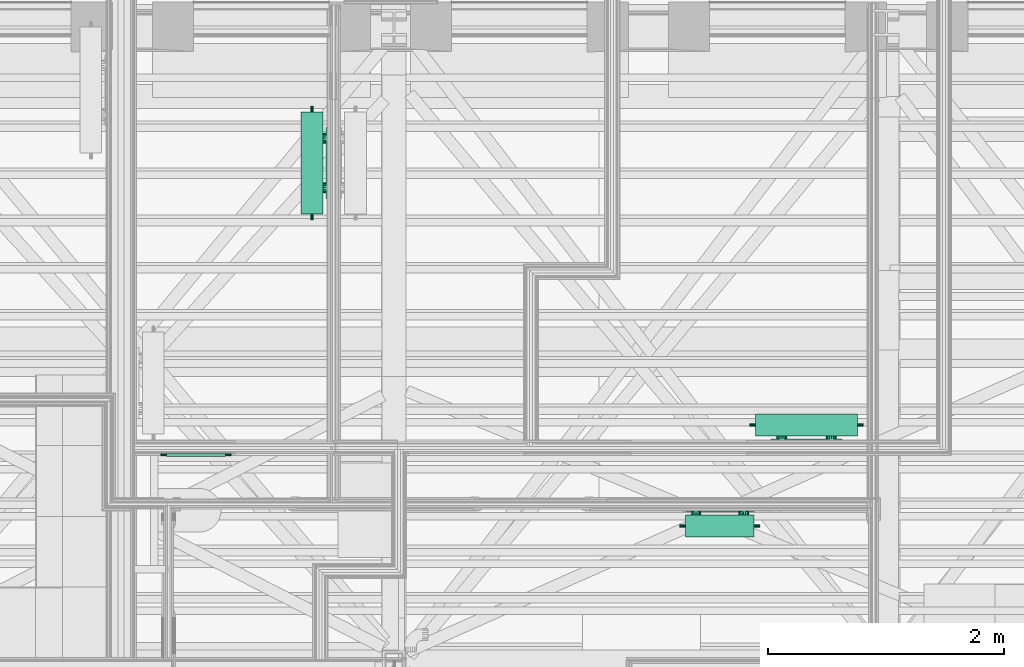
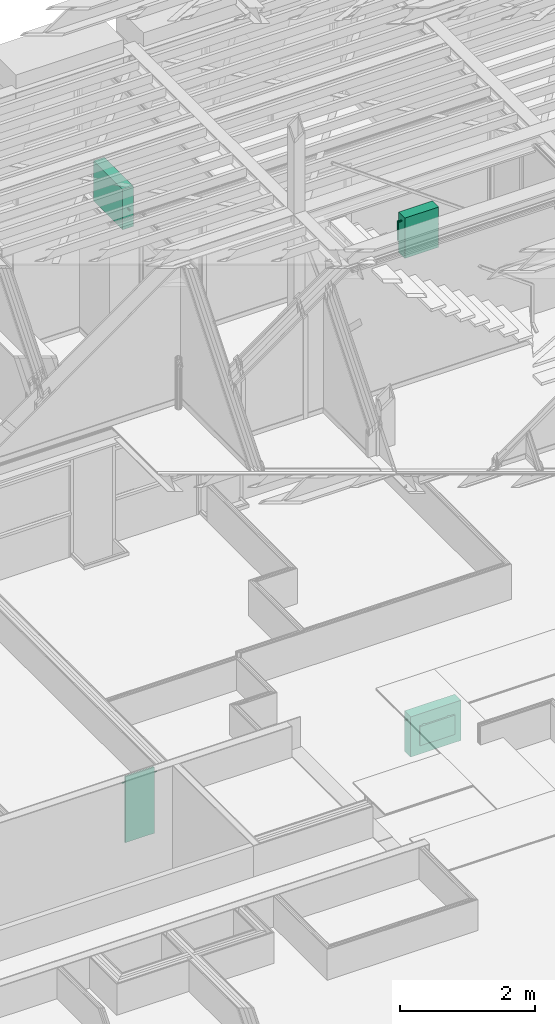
# One storey, part 168 of 183: 4 flow terminals.
"""IFC2X3 building model written with IfcOpenShell, lengths in metres."""

from ifc_helpers import new_model, entity, si_unit, converted_unit, derived_unit, money_unit, direction, frame, origin_with_axes, place, context, subcontext, project, spatial, open_shell, surface_model, material, type_object, element, save


model = new_model("IFC2X3")

# Units and contexts
model_context = context("Model", 3, precision=1e-05, world=origin_with_axes(), true_north=direction((0.0, 1.0)))
body_context = subcontext(model_context, "Body", "Model", "MODEL_VIEW", scale=1.0)
ifc_project = project(units=[si_unit("LENGTHUNIT", "METRE"), si_unit("AREAUNIT", "SQUARE_METRE"), si_unit("VOLUMEUNIT", "CUBIC_METRE"), si_unit("ABSORBEDDOSEUNIT", "GRAY"), si_unit("AMOUNTOFSUBSTANCEUNIT", "MOLE"), si_unit("DOSEEQUIVALENTUNIT", "SIEVERT"), si_unit("ELECTRICCAPACITANCEUNIT", "FARAD"), si_unit("ELECTRICCHARGEUNIT", "COULOMB"), si_unit("ELECTRICCONDUCTANCEUNIT", "SIEMENS"), si_unit("ELECTRICCURRENTUNIT", "AMPERE"), si_unit("ELECTRICRESISTANCEUNIT", "OHM"), si_unit("ELECTRICVOLTAGEUNIT", "VOLT"), si_unit("ENERGYUNIT", "JOULE"), si_unit("FORCEUNIT", "NEWTON"), si_unit("FREQUENCYUNIT", "HERTZ"), si_unit("ILLUMINANCEUNIT", "LUX"), si_unit("INDUCTANCEUNIT", "HENRY"), si_unit("LUMINOUSFLUXUNIT", "LUMEN"), si_unit("LUMINOUSINTENSITYUNIT", "CANDELA"), si_unit("MAGNETICFLUXDENSITYUNIT", "TESLA"), si_unit("MAGNETICFLUXUNIT", "WEBER"), si_unit("MASSUNIT", "GRAM"), converted_unit("PLANEANGLEUNIT", "degree", entity("IfcReal", 0.0174532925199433), si_unit("PLANEANGLEUNIT", "RADIAN"), dimensions=[0, 0, 0, 0, 0, 0, 0]), si_unit("POWERUNIT", "WATT"), si_unit("PRESSUREUNIT", "PASCAL"), si_unit("RADIOACTIVITYUNIT", "BECQUEREL"), si_unit("SOLIDANGLEUNIT", "STERADIAN"), si_unit("THERMODYNAMICTEMPERATUREUNIT", "KELVIN"), si_unit("TIMEUNIT", "SECOND"), derived_unit("ACCELERATIONUNIT", [(si_unit("LENGTHUNIT", "METRE"), 1), (si_unit("TIMEUNIT", "SECOND"), -2)]), derived_unit("ANGULARVELOCITYUNIT", [(converted_unit("PLANEANGLEUNIT", "degree", entity("IfcReal", 0.0174532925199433), si_unit("PLANEANGLEUNIT", "RADIAN"), dimensions=[0, 0, 0, 0, 0, 0, 0]), 1), (si_unit("TIMEUNIT", "SECOND"), -1)]), derived_unit("CURVATUREUNIT", [(converted_unit("PLANEANGLEUNIT", "degree", entity("IfcReal", 0.0174532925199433), si_unit("PLANEANGLEUNIT", "RADIAN"), dimensions=[0, 0, 0, 0, 0, 0, 0]), 1), (si_unit("LENGTHUNIT", "METRE"), -1)]), derived_unit("DYNAMICVISCOSITYUNIT", [(si_unit("PRESSUREUNIT", "PASCAL"), 1), (si_unit("TIMEUNIT", "SECOND"), 1)]), derived_unit("HEATFLUXDENSITYUNIT", [(si_unit("POWERUNIT", "WATT"), 1), (si_unit("LENGTHUNIT", "METRE"), -2)]), derived_unit("HEATINGVALUEUNIT", [(si_unit("ENERGYUNIT", "JOULE"), 1), (si_unit("MASSUNIT", "GRAM"), -1)]), derived_unit("INTEGERCOUNTRATEUNIT", [(si_unit("TIMEUNIT", "SECOND"), -1)]), derived_unit("IONCONCENTRATIONUNIT", [(si_unit("MASSUNIT", "GRAM"), 1), (si_unit("VOLUMEUNIT", "CUBIC_METRE"), -1)]), derived_unit("ISOTHERMALMOISTURECAPACITYUNIT", [(si_unit("VOLUMEUNIT", "CUBIC_METRE"), 1), (si_unit("MASSUNIT", "GRAM"), -1)]), derived_unit("KINEMATICVISCOSITYUNIT", [(si_unit("AREAUNIT", "SQUARE_METRE"), 1), (si_unit("TIMEUNIT", "SECOND"), -1)]), derived_unit("LINEARFORCEUNIT", [(si_unit("FORCEUNIT", "NEWTON"), 1), (si_unit("LENGTHUNIT", "METRE"), -1)]), derived_unit("LINEARMOMENTUNIT", [(si_unit("FORCEUNIT", "NEWTON"), 1), (si_unit("LENGTHUNIT", "METRE"), -1)]), derived_unit("LINEARSTIFFNESSUNIT", [(si_unit("FORCEUNIT", "NEWTON"), 1), (si_unit("LENGTHUNIT", "METRE"), -1)]), derived_unit("LINEARVELOCITYUNIT", [(si_unit("LENGTHUNIT", "METRE"), 1), (si_unit("TIMEUNIT", "SECOND"), -1)]), derived_unit("LUMINOUSINTENSITYDISTRIBUTIONUNIT", [(si_unit("LUMINOUSINTENSITYUNIT", "CANDELA"), 1), (si_unit("LUMINOUSFLUXUNIT", "LUMEN"), -1)]), derived_unit("MASSDENSITYUNIT", [(si_unit("MASSUNIT", "GRAM"), 1), (si_unit("VOLUMEUNIT", "CUBIC_METRE"), -1)]), derived_unit("MASSFLOWRATEUNIT", [(si_unit("MASSUNIT", "GRAM"), 1), (si_unit("TIMEUNIT", "SECOND"), -1)]), derived_unit("MASSPERLENGTHUNIT", [(si_unit("MASSUNIT", "GRAM"), 1), (si_unit("LENGTHUNIT", "METRE"), -1)]), derived_unit("MODULUSOFELASTICITYUNIT", [(si_unit("FORCEUNIT", "NEWTON"), 1), (si_unit("AREAUNIT", "SQUARE_METRE"), -1)]), derived_unit("MODULUSOFLINEARSUBGRADEREACTIONUNIT", [(si_unit("FORCEUNIT", "NEWTON"), 1), (si_unit("LENGTHUNIT", "METRE"), -2)]), derived_unit("MODULUSOFROTATIONALSUBGRADEREACTIONUNIT", [(si_unit("FORCEUNIT", "NEWTON"), 1), (si_unit("LENGTHUNIT", "METRE"), 1)]), derived_unit("MODULUSOFSUBGRADEREACTIONUNIT", [(si_unit("FORCEUNIT", "NEWTON"), 1), (si_unit("VOLUMEUNIT", "CUBIC_METRE"), -1)]), derived_unit("MOISTUREDIFFUSIVITYUNIT", [(si_unit("VOLUMEUNIT", "CUBIC_METRE"), 1), (si_unit("TIMEUNIT", "SECOND"), -1)]), derived_unit("MOLECULARWEIGHTUNIT", [(si_unit("MASSUNIT", "GRAM"), 1), (si_unit("AMOUNTOFSUBSTANCEUNIT", "MOLE"), -1)]), derived_unit("PLANARFORCEUNIT", [(si_unit("FORCEUNIT", "NEWTON"), 1), (si_unit("LENGTHUNIT", "METRE"), -2)]), derived_unit("ROTATIONALFREQUENCYUNIT", [(si_unit("TIMEUNIT", "SECOND"), -1)]), derived_unit("ROTATIONALMASSUNIT", [(si_unit("MASSUNIT", "GRAM"), 1), (si_unit("LENGTHUNIT", "METRE"), 2)]), derived_unit("ROTATIONALSTIFFNESSUNIT", [(si_unit("FORCEUNIT", "NEWTON"), 1), (si_unit("LENGTHUNIT", "METRE"), 1), (converted_unit("PLANEANGLEUNIT", "degree", entity("IfcReal", 0.0174532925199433), si_unit("PLANEANGLEUNIT", "RADIAN"), dimensions=[0, 0, 0, 0, 0, 0, 0]), -1)]), derived_unit("SECTIONAREAINTEGRALUNIT", [(si_unit("LENGTHUNIT", "METRE"), 5)]), derived_unit("SECTIONMODULUSUNIT", [(si_unit("LENGTHUNIT", "METRE"), 3)]), derived_unit("SHEARMODULUSUNIT", [(si_unit("FORCEUNIT", "NEWTON"), 1), (si_unit("AREAUNIT", "SQUARE_METRE"), -1)]), derived_unit("SOUNDPOWERUNIT", [(si_unit("ENERGYUNIT", "JOULE"), 1), (si_unit("TIMEUNIT", "SECOND"), -1)]), derived_unit("SPECIFICHEATCAPACITYUNIT", [(si_unit("FORCEUNIT", "NEWTON"), 1), (si_unit("MASSUNIT", "GRAM"), -1), (si_unit("THERMODYNAMICTEMPERATUREUNIT", "KELVIN"), -1)]), derived_unit("TEMPERATUREGRADIENTUNIT", [(si_unit("THERMODYNAMICTEMPERATUREUNIT", "KELVIN"), 1), (si_unit("LENGTHUNIT", "METRE"), -1)]), derived_unit("THERMALADMITTANCEUNIT", [(si_unit("POWERUNIT", "WATT"), 1), (si_unit("AREAUNIT", "SQUARE_METRE"), -1), (si_unit("THERMODYNAMICTEMPERATUREUNIT", "KELVIN"), -1)]), derived_unit("THERMALCONDUCTANCEUNIT", [(si_unit("POWERUNIT", "WATT"), 1), (si_unit("LENGTHUNIT", "METRE"), -1), (si_unit("THERMODYNAMICTEMPERATUREUNIT", "KELVIN"), -1)]), derived_unit("THERMALEXPANSIONCOEFFICIENTUNIT", [(si_unit("THERMODYNAMICTEMPERATUREUNIT", "KELVIN"), -1)]), derived_unit("THERMALRESISTANCEUNIT", [(si_unit("AREAUNIT", "SQUARE_METRE"), 1), (si_unit("POWERUNIT", "WATT"), -1)]), derived_unit("THERMALTRANSMITTANCEUNIT", [(si_unit("POWERUNIT", "WATT"), 1), (si_unit("AREAUNIT", "SQUARE_METRE"), -1), (si_unit("THERMODYNAMICTEMPERATUREUNIT", "KELVIN"), -1)]), derived_unit("TORQUEUNIT", [(si_unit("FORCEUNIT", "NEWTON"), 1), (si_unit("LENGTHUNIT", "METRE"), 1)]), derived_unit("VAPORPERMEABILITYUNIT", [(si_unit("MASSUNIT", "GRAM"), 1), (si_unit("TIMEUNIT", "SECOND"), -1)]), derived_unit("VOLUMETRICFLOWRATEUNIT", [(si_unit("VOLUMEUNIT", "CUBIC_METRE"), 1), (si_unit("TIMEUNIT", "SECOND"), -1)]), derived_unit("WARPINGCONSTANTUNIT", [(si_unit("LENGTHUNIT", "METRE"), 6)]), derived_unit("WARPINGMOMENTUNIT", [(si_unit("FORCEUNIT", "NEWTON"), 1), (si_unit("LENGTHUNIT", "METRE"), 2)]), money_unit("GBP")], contexts=[model_context])

# Site, building, storey, space
site_placement = place(None, origin_with_axes())
site = spatial("IfcSite", under=ifc_project, at=site_placement, Name="Site", CompositionType="ELEMENT")
building_placement = place(site_placement, origin_with_axes())
building = spatial("IfcBuilding", under=site, at=building_placement, Name="Building01", CompositionType="ELEMENT")
storey_placement = place(building_placement, frame((0.0, 0.0, 5.15), z_axis=(0.0, 0.0, 1.0), x_axis=(1.0, 0.0, 0.0)))
storey = spatial("IfcBuildingStorey", under=building, at=storey_placement, Name="1F", CompositionType="ELEMENT", Elevation=5.15)
space_1_placement = place(storey_placement, frame((15.83, 8.82, 0.017975), z_axis=(0.0, 0.0, 1.0), x_axis=(0.0, -1.0, 0.0)))
space_1 = spatial("IfcSpace", under=storey, at=space_1_placement, Name="02", CompositionType="ELEMENT", InteriorOrExteriorSpace="NOTDEFINED")

# Flow terminal
ifc_material = material(Name="M_BSUK_Ventilation")
space_heater_type_1 = type_object("IfcSpaceHeaterType", Name="M-BmvRadiatorpanel-Panel", PredefinedType="NOTDEFINED")
flow_terminal_1_placement = place(storey_placement, frame((21.844284, 10.81025, 0.665), z_axis=(0.0, 0.0, 1.0), x_axis=(-1.0, 0.0, 0.0)))
element("IfcFlowTerminal", 1, at=flow_terminal_1_placement, inside=space_1, type_object=space_heater_type_1, material=ifc_material, Name="M-BmvRadiatorpanel-Panel", ObjectType="M-BmvRadiatorpanel-Panel", context=body_context, shape_type="SurfaceModel", body=[
    surface_model("IfcShellBasedSurfaceModel", [(0.865, -0.0925, 0.365), (0.865, 0.0925, 0.365), (0.0, 0.0925, 0.365), (0.0, -0.0925, 0.365), (0.865, -0.0925, -0.365), (0.865, 0.0925, -0.365), (0.0, -0.0925, -0.365), (0.0, 0.0925, -0.365), (0.1325, 0.12025, 0.175), (0.7325, 0.12025, 0.175), (0.7325, 0.14525, 0.175), (0.1325, 0.14525, 0.175), (0.7325, 0.14525, -0.175), (0.1325, 0.14525, -0.175), (0.7325, 0.12025, -0.175), (0.1325, 0.12025, -0.175), (0.2225, 0.0925, 0.0775), (0.2225, 0.12025, 0.0775), (0.239721, 0.12025, 0.080925), (0.239721, 0.0925, 0.080925), (0.25432, 0.12025, 0.09068), (0.25432, 0.0925, 0.09068), (0.264075, 0.12025, 0.105279), (0.264075, 0.0925, 0.105279), (0.2675, 0.12025, 0.1225), (0.2675, 0.0925, 0.1225), (0.264075, 0.12025, 0.139721), (0.264075, 0.0925, 0.139721), (0.25432, 0.12025, 0.15432), (0.25432, 0.0925, 0.15432), (0.239721, 0.12025, 0.164075), (0.239721, 0.0925, 0.164075), (0.2225, 0.12025, 0.1675), (0.2225, 0.0925, 0.1675), (0.205279, 0.12025, 0.164075), (0.205279, 0.0925, 0.164075), (0.19068, 0.12025, 0.15432), (0.19068, 0.0925, 0.15432), (0.180925, 0.12025, 0.139721), (0.180925, 0.0925, 0.139721), (0.1775, 0.12025, 0.1225), (0.1775, 0.0925, 0.1225), (0.180925, 0.12025, 0.105279), (0.180925, 0.0925, 0.105279), (0.19068, 0.12025, 0.09068), (0.19068, 0.0925, 0.09068), (0.205279, 0.12025, 0.080925), (0.205279, 0.0925, 0.080925), (0.6425, 0.0925, 0.0775), (0.6425, 0.12025, 0.0775), (0.659721, 0.12025, 0.080925), (0.659721, 0.0925, 0.080925), (0.67432, 0.12025, 0.09068), (0.67432, 0.0925, 0.09068), (0.684075, 0.12025, 0.105279), (0.684075, 0.0925, 0.105279), (0.6875, 0.12025, 0.1225), (0.6875, 0.0925, 0.1225), (0.684075, 0.12025, 0.139721), (0.684075, 0.0925, 0.139721), (0.67432, 0.12025, 0.15432), (0.67432, 0.0925, 0.15432), (0.659721, 0.12025, 0.164075), (0.659721, 0.0925, 0.164075), (0.6425, 0.12025, 0.1675), (0.6425, 0.0925, 0.1675), (0.625279, 0.12025, 0.164075), (0.625279, 0.0925, 0.164075), (0.61068, 0.12025, 0.15432), (0.61068, 0.0925, 0.15432), (0.600925, 0.12025, 0.139721), (0.600925, 0.0925, 0.139721), (0.5975, 0.12025, 0.1225), (0.5975, 0.0925, 0.1225), (0.600925, 0.12025, 0.105279), (0.600925, 0.0925, 0.105279), (0.61068, 0.12025, 0.09068), (0.61068, 0.0925, 0.09068), (0.625279, 0.12025, 0.080925), (0.625279, 0.0925, 0.080925), (-0.05, 0.0, -0.0225), (0.0, 0.0, -0.0225), (0.0, -0.004784, -0.021548), (-0.05, -0.004784, -0.021548), (0.0, -0.008839, -0.018839), (-0.05, -0.008839, -0.018839), (0.0, -0.011548, -0.014784), (-0.05, -0.011548, -0.014784), (0.0, -0.0125, -0.01), (-0.05, -0.0125, -0.01), (0.0, -0.011548, -0.005216), (-0.05, -0.011548, -0.005216), (0.0, -0.008839, -0.001161), (-0.05, -0.008839, -0.001161), (0.0, -0.004784, 0.001548), (-0.05, -0.004784, 0.001548), (0.0, 0.0, 0.0025), (-0.05, 0.0, 0.0025), (0.0, 0.004784, 0.001548), (-0.05, 0.004784, 0.001548), (0.0, 0.008839, -0.001161), (-0.05, 0.008839, -0.001161), (0.0, 0.011548, -0.005216), (-0.05, 0.011548, -0.005216), (0.0, 0.0125, -0.01), (-0.05, 0.0125, -0.01), (0.0, 0.011548, -0.014784), (-0.05, 0.011548, -0.014784), (0.0, 0.008839, -0.018839), (-0.05, 0.008839, -0.018839), (0.0, 0.004784, -0.021548), (-0.05, 0.004784, -0.021548), (0.915, 0.0, 0.2525), (0.865, 0.0, 0.2525), (0.865, 0.004784, 0.253452), (0.915, 0.004784, 0.253452), (0.865, 0.008839, 0.256161), (0.915, 0.008839, 0.256161), (0.865, 0.011548, 0.260216), (0.915, 0.011548, 0.260216), (0.865, 0.0125, 0.265), (0.915, 0.0125, 0.265), (0.865, 0.011548, 0.269784), (0.915, 0.011548, 0.269784), (0.865, 0.008839, 0.273839), (0.915, 0.008839, 0.273839), (0.865, 0.004784, 0.276548), (0.915, 0.004784, 0.276548), (0.865, 0.0, 0.2775), (0.915, 0.0, 0.2775), (0.865, -0.004784, 0.276548), (0.915, -0.004784, 0.276548), (0.865, -0.008839, 0.273839), (0.915, -0.008839, 0.273839), (0.865, -0.011548, 0.269784), (0.915, -0.011548, 0.269784), (0.865, -0.0125, 0.265), (0.915, -0.0125, 0.265), (0.865, -0.011548, 0.260216), (0.915, -0.011548, 0.260216), (0.865, -0.008839, 0.256161), (0.915, -0.008839, 0.256161), (0.865, -0.004784, 0.253452), (0.915, -0.004784, 0.253452)], [open_shell([[[0, 1, 2, 3]], [[4, 5, 1, 0]], [[6, 7, 5, 4]], [[3, 2, 7, 6]], [[1, 5, 7, 2]], [[3, 6, 4, 0]], [[8, 9, 10, 11]], [[11, 10, 12, 13]], [[13, 12, 14, 15]], [[15, 14, 9, 8]], [[9, 14, 12, 10]], [[11, 13, 15, 8]], [[16, 17, 18, 19]], [[19, 18, 20, 21]], [[21, 20, 22, 23]], [[23, 22, 24, 25]], [[25, 24, 26, 27]], [[27, 26, 28, 29]], [[29, 28, 30, 31]], [[31, 30, 32, 33]], [[33, 32, 34, 35]], [[35, 34, 36, 37]], [[37, 36, 38, 39]], [[39, 38, 40, 41]], [[41, 40, 42, 43]], [[43, 42, 44, 45]], [[45, 44, 46, 47]], [[47, 46, 17, 16]], [[48, 49, 50, 51]], [[51, 50, 52, 53]], [[53, 52, 54, 55]], [[55, 54, 56, 57]], [[57, 56, 58, 59]], [[59, 58, 60, 61]], [[61, 60, 62, 63]], [[63, 62, 64, 65]], [[65, 64, 66, 67]], [[67, 66, 68, 69]], [[69, 68, 70, 71]], [[71, 70, 72, 73]], [[73, 72, 74, 75]], [[75, 74, 76, 77]], [[77, 76, 78, 79]], [[79, 78, 49, 48]], [[80, 81, 82, 83]], [[83, 82, 84, 85]], [[85, 84, 86, 87]], [[87, 86, 88, 89]], [[89, 88, 90, 91]], [[91, 90, 92, 93]], [[93, 92, 94, 95]], [[95, 94, 96, 97]], [[97, 96, 98, 99]], [[99, 98, 100, 101]], [[101, 100, 102, 103]], [[103, 102, 104, 105]], [[105, 104, 106, 107]], [[107, 106, 108, 109]], [[109, 108, 110, 111]], [[111, 110, 81, 80]], [[112, 113, 114, 115]], [[115, 114, 116, 117]], [[117, 116, 118, 119]], [[119, 118, 120, 121]], [[121, 120, 122, 123]], [[123, 122, 124, 125]], [[125, 124, 126, 127]], [[127, 126, 128, 129]], [[129, 128, 130, 131]], [[131, 130, 132, 133]], [[133, 132, 134, 135]], [[135, 134, 136, 137]], [[137, 136, 138, 139]], [[139, 138, 140, 141]], [[141, 140, 142, 143]], [[143, 142, 113, 112]]])]),
])

# Space
space_2_placement = place(storey_placement, frame((16.03844, 8.82, 9.81), z_axis=(0.0, 0.0, 1.0), x_axis=(0.0, -1.0, 0.0)))
space_2 = spatial("IfcSpace", under=storey, at=space_2_placement, Name="23", CompositionType="ELEMENT", InteriorOrExteriorSpace="NOTDEFINED")

# Flow terminals
flow_terminal_2_placement = place(storey_placement, frame((17.214726, 12.601764, 10.445), z_axis=(0.0, 0.0, 1.0), x_axis=(0.0, -1.0, 0.0)))
element("IfcFlowTerminal", 2, at=flow_terminal_2_placement, inside=space_2, type_object=space_heater_type_1, material=ifc_material, Name="M-BmvRadiatorpanel-Panel", ObjectType="M-BmvRadiatorpanel-Panel", context=body_context, shape_type="SurfaceModel", body=[
    surface_model("IfcShellBasedSurfaceModel", [(-0.865, -0.0925, 0.365), (-0.865, 0.0925, 0.365), (0.0, 0.0925, 0.365), (0.0, -0.0925, 0.365), (-0.865, -0.0925, -0.365), (-0.865, 0.0925, -0.365), (0.0, -0.0925, -0.365), (0.0, 0.0925, -0.365), (-0.1325, 0.12025, 0.175), (-0.7325, 0.12025, 0.175), (-0.7325, 0.14525, 0.175), (-0.1325, 0.14525, 0.175), (-0.7325, 0.14525, -0.175), (-0.1325, 0.14525, -0.175), (-0.7325, 0.12025, -0.175), (-0.1325, 0.12025, -0.175), (-0.2225, 0.0925, 0.0775), (-0.2225, 0.12025, 0.0775), (-0.205279, 0.12025, 0.080925), (-0.205279, 0.0925, 0.080925), (-0.19068, 0.12025, 0.09068), (-0.19068, 0.0925, 0.09068), (-0.180925, 0.12025, 0.105279), (-0.180925, 0.0925, 0.105279), (-0.1775, 0.12025, 0.1225), (-0.1775, 0.0925, 0.1225), (-0.180925, 0.12025, 0.139721), (-0.180925, 0.0925, 0.139721), (-0.19068, 0.12025, 0.15432), (-0.19068, 0.0925, 0.15432), (-0.205279, 0.12025, 0.164075), (-0.205279, 0.0925, 0.164075), (-0.2225, 0.12025, 0.1675), (-0.2225, 0.0925, 0.1675), (-0.239721, 0.12025, 0.164075), (-0.239721, 0.0925, 0.164075), (-0.25432, 0.12025, 0.15432), (-0.25432, 0.0925, 0.15432), (-0.264075, 0.12025, 0.139721), (-0.264075, 0.0925, 0.139721), (-0.2675, 0.12025, 0.1225), (-0.2675, 0.0925, 0.1225), (-0.264075, 0.12025, 0.105279), (-0.264075, 0.0925, 0.105279), (-0.25432, 0.12025, 0.09068), (-0.25432, 0.0925, 0.09068), (-0.239721, 0.12025, 0.080925), (-0.239721, 0.0925, 0.080925), (-0.6425, 0.0925, 0.0775), (-0.6425, 0.12025, 0.0775), (-0.625279, 0.12025, 0.080925), (-0.625279, 0.0925, 0.080925), (-0.61068, 0.12025, 0.09068), (-0.61068, 0.0925, 0.09068), (-0.600925, 0.12025, 0.105279), (-0.600925, 0.0925, 0.105279), (-0.5975, 0.12025, 0.1225), (-0.5975, 0.0925, 0.1225), (-0.600925, 0.12025, 0.139721), (-0.600925, 0.0925, 0.139721), (-0.61068, 0.12025, 0.15432), (-0.61068, 0.0925, 0.15432), (-0.625279, 0.12025, 0.164075), (-0.625279, 0.0925, 0.164075), (-0.6425, 0.12025, 0.1675), (-0.6425, 0.0925, 0.1675), (-0.659721, 0.12025, 0.164075), (-0.659721, 0.0925, 0.164075), (-0.67432, 0.12025, 0.15432), (-0.67432, 0.0925, 0.15432), (-0.684075, 0.12025, 0.139721), (-0.684075, 0.0925, 0.139721), (-0.6875, 0.12025, 0.1225), (-0.6875, 0.0925, 0.1225), (-0.684075, 0.12025, 0.105279), (-0.684075, 0.0925, 0.105279), (-0.67432, 0.12025, 0.09068), (-0.67432, 0.0925, 0.09068), (-0.659721, 0.12025, 0.080925), (-0.659721, 0.0925, 0.080925), (0.05, 0.0, -0.0225), (0.0, 0.0, -0.0225), (0.0, 0.004784, -0.021548), (0.05, 0.004784, -0.021548), (0.0, 0.008839, -0.018839), (0.05, 0.008839, -0.018839), (0.0, 0.011548, -0.014784), (0.05, 0.011548, -0.014784), (0.0, 0.0125, -0.01), (0.05, 0.0125, -0.01), (0.0, 0.011548, -0.005216), (0.05, 0.011548, -0.005216), (0.0, 0.008839, -0.001161), (0.05, 0.008839, -0.001161), (0.0, 0.004784, 0.001548), (0.05, 0.004784, 0.001548), (0.0, 0.0, 0.0025), (0.05, 0.0, 0.0025), (0.0, -0.004784, 0.001548), (0.05, -0.004784, 0.001548), (0.0, -0.008839, -0.001161), (0.05, -0.008839, -0.001161), (0.0, -0.011548, -0.005216), (0.05, -0.011548, -0.005216), (0.0, -0.0125, -0.01), (0.05, -0.0125, -0.01), (0.0, -0.011548, -0.014784), (0.05, -0.011548, -0.014784), (0.0, -0.008839, -0.018839), (0.05, -0.008839, -0.018839), (0.0, -0.004784, -0.021548), (0.05, -0.004784, -0.021548), (-0.915, 0.0, 0.2525), (-0.865, 0.0, 0.2525), (-0.865, -0.004784, 0.253452), (-0.915, -0.004784, 0.253452), (-0.865, -0.008839, 0.256161), (-0.915, -0.008839, 0.256161), (-0.865, -0.011548, 0.260216), (-0.915, -0.011548, 0.260216), (-0.865, -0.0125, 0.265), (-0.915, -0.0125, 0.265), (-0.865, -0.011548, 0.269784), (-0.915, -0.011548, 0.269784), (-0.865, -0.008839, 0.273839), (-0.915, -0.008839, 0.273839), (-0.865, -0.004784, 0.276548), (-0.915, -0.004784, 0.276548), (-0.865, 0.0, 0.2775), (-0.915, 0.0, 0.2775), (-0.865, 0.004784, 0.276548), (-0.915, 0.004784, 0.276548), (-0.865, 0.008839, 0.273839), (-0.915, 0.008839, 0.273839), (-0.865, 0.011548, 0.269784), (-0.915, 0.011548, 0.269784), (-0.865, 0.0125, 0.265), (-0.915, 0.0125, 0.265), (-0.865, 0.011548, 0.260216), (-0.915, 0.011548, 0.260216), (-0.865, 0.008839, 0.256161), (-0.915, 0.008839, 0.256161), (-0.865, 0.004784, 0.253452), (-0.915, 0.004784, 0.253452)], [open_shell([[[0, 1, 2, 3]], [[4, 5, 1, 0]], [[6, 7, 5, 4]], [[3, 2, 7, 6]], [[1, 5, 7, 2]], [[3, 6, 4, 0]], [[8, 9, 10, 11]], [[11, 10, 12, 13]], [[13, 12, 14, 15]], [[15, 14, 9, 8]], [[9, 14, 12, 10]], [[11, 13, 15, 8]], [[16, 17, 18, 19]], [[19, 18, 20, 21]], [[21, 20, 22, 23]], [[23, 22, 24, 25]], [[25, 24, 26, 27]], [[27, 26, 28, 29]], [[29, 28, 30, 31]], [[31, 30, 32, 33]], [[33, 32, 34, 35]], [[35, 34, 36, 37]], [[37, 36, 38, 39]], [[39, 38, 40, 41]], [[41, 40, 42, 43]], [[43, 42, 44, 45]], [[45, 44, 46, 47]], [[47, 46, 17, 16]], [[48, 49, 50, 51]], [[51, 50, 52, 53]], [[53, 52, 54, 55]], [[55, 54, 56, 57]], [[57, 56, 58, 59]], [[59, 58, 60, 61]], [[61, 60, 62, 63]], [[63, 62, 64, 65]], [[65, 64, 66, 67]], [[67, 66, 68, 69]], [[69, 68, 70, 71]], [[71, 70, 72, 73]], [[73, 72, 74, 75]], [[75, 74, 76, 77]], [[77, 76, 78, 79]], [[79, 78, 49, 48]], [[80, 81, 82, 83]], [[83, 82, 84, 85]], [[85, 84, 86, 87]], [[87, 86, 88, 89]], [[89, 88, 90, 91]], [[91, 90, 92, 93]], [[93, 92, 94, 95]], [[95, 94, 96, 97]], [[97, 96, 98, 99]], [[99, 98, 100, 101]], [[101, 100, 102, 103]], [[103, 102, 104, 105]], [[105, 104, 106, 107]], [[107, 106, 108, 109]], [[109, 108, 110, 111]], [[111, 110, 81, 80]], [[112, 113, 114, 115]], [[115, 114, 116, 117]], [[117, 116, 118, 119]], [[119, 118, 120, 121]], [[121, 120, 122, 123]], [[123, 122, 124, 125]], [[125, 124, 126, 127]], [[127, 126, 128, 129]], [[129, 128, 130, 131]], [[131, 130, 132, 133]], [[133, 132, 134, 135]], [[135, 134, 136, 137]], [[137, 136, 138, 139]], [[139, 138, 140, 141]], [[141, 140, 142, 143]], [[143, 142, 113, 112]]])]),
])
flow_terminal_3_placement = place(storey_placement, frame((20.965544, 9.954689, 10.445), z_axis=(0.0, 0.0, 1.0), x_axis=(1.0, 0.0, 0.0)))
element("IfcFlowTerminal", 3, at=flow_terminal_3_placement, inside=space_2, type_object=space_heater_type_1, material=ifc_material, Name="M-BmvRadiatorpanel-Panel", ObjectType="M-BmvRadiatorpanel-Panel", context=body_context, shape_type="SurfaceModel", body=[
    surface_model("IfcShellBasedSurfaceModel", [(-0.58, -0.0925, 0.365), (-0.58, 0.0925, 0.365), (0.0, 0.0925, 0.365), (0.0, -0.0925, 0.365), (-0.58, -0.0925, -0.365), (-0.58, 0.0925, -0.365), (0.0, -0.0925, -0.365), (0.0, 0.0925, -0.365), (0.0, 0.12025, 0.175), (-0.58, 0.12025, 0.175), (-0.58, 0.14525, 0.175), (0.0, 0.14525, 0.175), (-0.58, 0.14525, -0.175), (0.0, 0.14525, -0.175), (-0.58, 0.12025, -0.175), (0.0, 0.12025, -0.175), (-0.087, 0.0925, 0.079), (-0.087, 0.12025, 0.079), (-0.070353, 0.12025, 0.082311), (-0.070353, 0.0925, 0.082311), (-0.056241, 0.12025, 0.091741), (-0.056241, 0.0925, 0.091741), (-0.046811, 0.12025, 0.105853), (-0.046811, 0.0925, 0.105853), (-0.0435, 0.12025, 0.1225), (-0.0435, 0.0925, 0.1225), (-0.046811, 0.12025, 0.139147), (-0.046811, 0.0925, 0.139147), (-0.056241, 0.12025, 0.153259), (-0.056241, 0.0925, 0.153259), (-0.070353, 0.12025, 0.162689), (-0.070353, 0.0925, 0.162689), (-0.087, 0.12025, 0.166), (-0.087, 0.0925, 0.166), (-0.103647, 0.12025, 0.162689), (-0.103647, 0.0925, 0.162689), (-0.117759, 0.12025, 0.153259), (-0.117759, 0.0925, 0.153259), (-0.127189, 0.12025, 0.139147), (-0.127189, 0.0925, 0.139147), (-0.1305, 0.12025, 0.1225), (-0.1305, 0.0925, 0.1225), (-0.127189, 0.12025, 0.105853), (-0.127189, 0.0925, 0.105853), (-0.117759, 0.12025, 0.091741), (-0.117759, 0.0925, 0.091741), (-0.103647, 0.12025, 0.082311), (-0.103647, 0.0925, 0.082311), (-0.493, 0.0925, 0.079), (-0.493, 0.12025, 0.079), (-0.476353, 0.12025, 0.082311), (-0.476353, 0.0925, 0.082311), (-0.462241, 0.12025, 0.091741), (-0.462241, 0.0925, 0.091741), (-0.452811, 0.12025, 0.105853), (-0.452811, 0.0925, 0.105853), (-0.4495, 0.12025, 0.1225), (-0.4495, 0.0925, 0.1225), (-0.452811, 0.12025, 0.139147), (-0.452811, 0.0925, 0.139147), (-0.462241, 0.12025, 0.153259), (-0.462241, 0.0925, 0.153259), (-0.476353, 0.12025, 0.162689), (-0.476353, 0.0925, 0.162689), (-0.493, 0.12025, 0.166), (-0.493, 0.0925, 0.166), (-0.509647, 0.12025, 0.162689), (-0.509647, 0.0925, 0.162689), (-0.523759, 0.12025, 0.153259), (-0.523759, 0.0925, 0.153259), (-0.533189, 0.12025, 0.139147), (-0.533189, 0.0925, 0.139147), (-0.5365, 0.12025, 0.1225), (-0.5365, 0.0925, 0.1225), (-0.533189, 0.12025, 0.105853), (-0.533189, 0.0925, 0.105853), (-0.523759, 0.12025, 0.091741), (-0.523759, 0.0925, 0.091741), (-0.509647, 0.12025, 0.082311), (-0.509647, 0.0925, 0.082311), (0.05, 0.0, -0.0225), (0.0, 0.0, -0.0225), (0.0, 0.004784, -0.021548), (0.05, 0.004784, -0.021548), (0.0, 0.008839, -0.018839), (0.05, 0.008839, -0.018839), (0.0, 0.011548, -0.014784), (0.05, 0.011548, -0.014784), (0.0, 0.0125, -0.01), (0.05, 0.0125, -0.01), (0.0, 0.011548, -0.005216), (0.05, 0.011548, -0.005216), (0.0, 0.008839, -0.001161), (0.05, 0.008839, -0.001161), (0.0, 0.004784, 0.001548), (0.05, 0.004784, 0.001548), (0.0, 0.0, 0.0025), (0.05, 0.0, 0.0025), (0.0, -0.004784, 0.001548), (0.05, -0.004784, 0.001548), (0.0, -0.008839, -0.001161), (0.05, -0.008839, -0.001161), (0.0, -0.011548, -0.005216), (0.05, -0.011548, -0.005216), (0.0, -0.0125, -0.01), (0.05, -0.0125, -0.01), (0.0, -0.011548, -0.014784), (0.05, -0.011548, -0.014784), (0.0, -0.008839, -0.018839), (0.05, -0.008839, -0.018839), (0.0, -0.004784, -0.021548), (0.05, -0.004784, -0.021548), (-0.63, 0.0, 0.2525), (-0.58, 0.0, 0.2525), (-0.58, -0.004784, 0.253452), (-0.63, -0.004784, 0.253452), (-0.58, -0.008839, 0.256161), (-0.63, -0.008839, 0.256161), (-0.58, -0.011548, 0.260216), (-0.63, -0.011548, 0.260216), (-0.58, -0.0125, 0.265), (-0.63, -0.0125, 0.265), (-0.58, -0.011548, 0.269784), (-0.63, -0.011548, 0.269784), (-0.58, -0.008839, 0.273839), (-0.63, -0.008839, 0.273839), (-0.58, -0.004784, 0.276548), (-0.63, -0.004784, 0.276548), (-0.58, 0.0, 0.2775), (-0.63, 0.0, 0.2775), (-0.58, 0.004784, 0.276548), (-0.63, 0.004784, 0.276548), (-0.58, 0.008839, 0.273839), (-0.63, 0.008839, 0.273839), (-0.58, 0.011548, 0.269784), (-0.63, 0.011548, 0.269784), (-0.58, 0.0125, 0.265), (-0.63, 0.0125, 0.265), (-0.58, 0.011548, 0.260216), (-0.63, 0.011548, 0.260216), (-0.58, 0.008839, 0.256161), (-0.63, 0.008839, 0.256161), (-0.58, 0.004784, 0.253452), (-0.63, 0.004784, 0.253452)], [open_shell([[[0, 1, 2, 3]], [[4, 5, 1, 0]], [[6, 7, 5, 4]], [[3, 2, 7, 6]], [[1, 5, 7, 2]], [[3, 6, 4, 0]], [[8, 9, 10, 11]], [[11, 10, 12, 13]], [[13, 12, 14, 15]], [[15, 14, 9, 8]], [[9, 14, 12, 10]], [[11, 13, 15, 8]], [[16, 17, 18, 19]], [[19, 18, 20, 21]], [[21, 20, 22, 23]], [[23, 22, 24, 25]], [[25, 24, 26, 27]], [[27, 26, 28, 29]], [[29, 28, 30, 31]], [[31, 30, 32, 33]], [[33, 32, 34, 35]], [[35, 34, 36, 37]], [[37, 36, 38, 39]], [[39, 38, 40, 41]], [[41, 40, 42, 43]], [[43, 42, 44, 45]], [[45, 44, 46, 47]], [[47, 46, 17, 16]], [[48, 49, 50, 51]], [[51, 50, 52, 53]], [[53, 52, 54, 55]], [[55, 54, 56, 57]], [[57, 56, 58, 59]], [[59, 58, 60, 61]], [[61, 60, 62, 63]], [[63, 62, 64, 65]], [[65, 64, 66, 67]], [[67, 66, 68, 69]], [[69, 68, 70, 71]], [[71, 70, 72, 73]], [[73, 72, 74, 75]], [[75, 74, 76, 77]], [[77, 76, 78, 79]], [[79, 78, 49, 48]], [[80, 81, 82, 83]], [[83, 82, 84, 85]], [[85, 84, 86, 87]], [[87, 86, 88, 89]], [[89, 88, 90, 91]], [[91, 90, 92, 93]], [[93, 92, 94, 95]], [[95, 94, 96, 97]], [[97, 96, 98, 99]], [[99, 98, 100, 101]], [[101, 100, 102, 103]], [[103, 102, 104, 105]], [[105, 104, 106, 107]], [[107, 106, 108, 109]], [[109, 108, 110, 111]], [[111, 110, 81, 80]], [[112, 113, 114, 115]], [[115, 114, 116, 117]], [[117, 116, 118, 119]], [[119, 118, 120, 121]], [[121, 120, 122, 123]], [[123, 122, 124, 125]], [[125, 124, 126, 127]], [[127, 126, 128, 129]], [[129, 128, 130, 131]], [[131, 130, 132, 133]], [[133, 132, 134, 135]], [[135, 134, 136, 137]], [[137, 136, 138, 139]], [[139, 138, 140, 141]], [[141, 140, 142, 143]], [[143, 142, 113, 112]]])]),
])

# Space
space_3_placement = place(storey_placement, frame((15.708132, 10.57, 0.017975), z_axis=(0.0, 0.0, 1.0), x_axis=(0.0, -1.0, 0.0)))
space_3 = spatial("IfcSpace", under=storey, at=space_3_placement, Name="ensuite", CompositionType="ELEMENT", InteriorOrExteriorSpace="NOTDEFINED")

# Flow terminal
space_heater_type_2 = type_object("IfcSpaceHeaterType", Name="M-BmvRadiator-Column", PredefinedType="NOTDEFINED")
flow_terminal_4_placement = place(storey_placement, frame((15.979895, 10.5575, 1.2), z_axis=(0.0, 0.0, 1.0), x_axis=(-1.0, 0.0, 0.0)))
element("IfcFlowTerminal", 4, at=flow_terminal_4_placement, inside=space_3, type_object=space_heater_type_2, material=ifc_material, Name="M-BmvRadiator-Column", ObjectType="M-BmvRadiator-Column", context=body_context, shape_type="SurfaceModel", body=[
    surface_model("IfcShellBasedSurfaceModel", [(0.0, -0.0125, 0.6), (0.0, -0.0125, -0.6), (0.0, 0.0125, -0.6), (0.0, 0.0125, 0.6), (-0.5, -0.0125, 0.6), (-0.5, -0.0125, -0.6), (-0.5, 0.0125, -0.6), (-0.5, 0.0125, 0.6), (-0.1, 0.0125, 0.6), (-0.1, -0.0125, 0.6), (-0.1, -0.0125, -0.6), (-0.1, 0.0125, -0.6), (-0.2, 0.0125, 0.6), (-0.2, -0.0125, 0.6), (-0.2, -0.0125, -0.6), (-0.2, 0.0125, -0.6), (-0.3, 0.0125, 0.6), (-0.3, -0.0125, 0.6), (-0.3, -0.0125, -0.6), (-0.3, 0.0125, -0.6), (-0.4, 0.0125, 0.6), (-0.4, -0.0125, 0.6), (-0.4, -0.0125, -0.6), (-0.4, 0.0125, -0.6), (0.05, 0.0, 0.4825), (0.0, 0.0, 0.4825), (0.0, 0.003827, 0.483261), (0.05, 0.003827, 0.483261), (0.0, 0.007071, 0.485429), (0.05, 0.007071, 0.485429), (0.0, 0.009239, 0.488673), (0.05, 0.009239, 0.488673), (0.0, 0.01, 0.4925), (0.05, 0.01, 0.4925), (0.0, 0.009239, 0.496327), (0.05, 0.009239, 0.496327), (0.0, 0.007071, 0.499571), (0.05, 0.007071, 0.499571), (0.0, 0.003827, 0.501739), (0.05, 0.003827, 0.501739), (0.0, 0.0, 0.5025), (0.05, 0.0, 0.5025), (0.0, -0.003827, 0.501739), (0.05, -0.003827, 0.501739), (0.0, -0.007071, 0.499571), (0.05, -0.007071, 0.499571), (0.0, -0.009239, 0.496327), (0.05, -0.009239, 0.496327), (0.0, -0.01, 0.4925), (0.05, -0.01, 0.4925), (0.0, -0.009239, 0.488673), (0.05, -0.009239, 0.488673), (0.0, -0.007071, 0.485429), (0.05, -0.007071, 0.485429), (0.0, -0.003827, 0.483261), (0.05, -0.003827, 0.483261), (-0.55, 0.0, 0.4884), (-0.5, 0.0, 0.4884), (-0.5, -0.003827, 0.489161), (-0.55, -0.003827, 0.489161), (-0.5, -0.007071, 0.491329), (-0.55, -0.007071, 0.491329), (-0.5, -0.009239, 0.494573), (-0.55, -0.009239, 0.494573), (-0.5, -0.01, 0.4984), (-0.55, -0.01, 0.4984), (-0.5, -0.009239, 0.502227), (-0.55, -0.009239, 0.502227), (-0.5, -0.007071, 0.505471), (-0.55, -0.007071, 0.505471), (-0.5, -0.003827, 0.507639), (-0.55, -0.003827, 0.507639), (-0.5, 0.0, 0.5084), (-0.55, 0.0, 0.5084), (-0.5, 0.003827, 0.507639), (-0.55, 0.003827, 0.507639), (-0.5, 0.007071, 0.505471), (-0.55, 0.007071, 0.505471), (-0.5, 0.009239, 0.502227), (-0.55, 0.009239, 0.502227), (-0.5, 0.01, 0.4984), (-0.55, 0.01, 0.4984), (-0.5, 0.009239, 0.494573), (-0.55, 0.009239, 0.494573), (-0.5, 0.007071, 0.491329), (-0.55, 0.007071, 0.491329), (-0.5, 0.003827, 0.489161), (-0.55, 0.003827, 0.489161)], [open_shell([[[0, 1, 2, 3]], [[4, 5, 6, 7]], [[8, 3, 0, 9]], [[9, 0, 1, 10]], [[10, 1, 2, 11]], [[11, 2, 3, 8]], [[12, 8, 9, 13]], [[13, 9, 10, 14]], [[14, 10, 11, 15]], [[15, 11, 8, 12]], [[16, 12, 13, 17]], [[17, 13, 14, 18]], [[18, 14, 15, 19]], [[19, 15, 12, 16]], [[20, 16, 17, 21]], [[21, 17, 18, 22]], [[22, 18, 19, 23]], [[23, 19, 16, 20]], [[7, 20, 21, 4]], [[4, 21, 22, 5]], [[5, 22, 23, 6]], [[6, 23, 20, 7]], [[24, 25, 26, 27]], [[27, 26, 28, 29]], [[29, 28, 30, 31]], [[31, 30, 32, 33]], [[33, 32, 34, 35]], [[35, 34, 36, 37]], [[37, 36, 38, 39]], [[39, 38, 40, 41]], [[41, 40, 42, 43]], [[43, 42, 44, 45]], [[45, 44, 46, 47]], [[47, 46, 48, 49]], [[49, 48, 50, 51]], [[51, 50, 52, 53]], [[53, 52, 54, 55]], [[55, 54, 25, 24]], [[56, 57, 58, 59]], [[59, 58, 60, 61]], [[61, 60, 62, 63]], [[63, 62, 64, 65]], [[65, 64, 66, 67]], [[67, 66, 68, 69]], [[69, 68, 70, 71]], [[71, 70, 72, 73]], [[73, 72, 74, 75]], [[75, 74, 76, 77]], [[77, 76, 78, 79]], [[79, 78, 80, 81]], [[81, 80, 82, 83]], [[83, 82, 84, 85]], [[85, 84, 86, 87]], [[87, 86, 57, 56]]])]),
])

save(model, "model.ifc")
